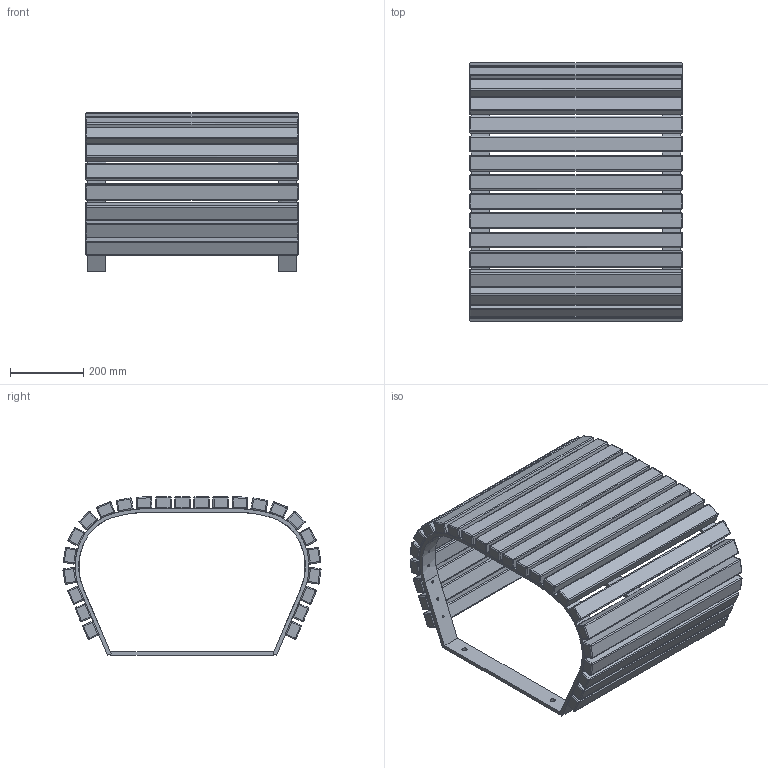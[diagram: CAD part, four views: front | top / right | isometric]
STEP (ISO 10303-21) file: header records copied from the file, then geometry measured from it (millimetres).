
FILE_DESCRIPTION(/* description */ (''),/* implementation_level */ '2;1');
FILE_NAME(/* name */ 'ENV02-E1_UAP_ENVIRON_Bench_3D',/* time_stamp */ '2018-01-23T21:04:48-05:00',/* author */ (''),/* organization */ (''),/* preprocessor_version */ 'ST-DEVELOPER v15',/* originating_system */ '',/* authorisation */ '');
FILE_SCHEMA (('AUTOMOTIVE_DESIGN'));
Length unit declared in the file: millimetre
Products named in the file (1): Document
Bounding box: 580 x 703.4 x 432.03 mm (x, y, z)
Volume: 20315379.3 mm3; surface area: 2476398 mm2
Topology: 28 solids, 28 shells, 768 faces, 1716 edges, 824 vertices
Faces by surface type: bspline 592, plane 176
Entity records: 26419 total; most frequent: CARTESIAN_POINT 16832, ORIENTED_EDGE 3072, EDGE_CURVE 1536, EDGE_LOOP 872, VERTEX_POINT 824, ADVANCED_FACE 768, FACE_OUTER_BOUND 768, B_SPLINE_CURVE_WITH_KNOTS 744
